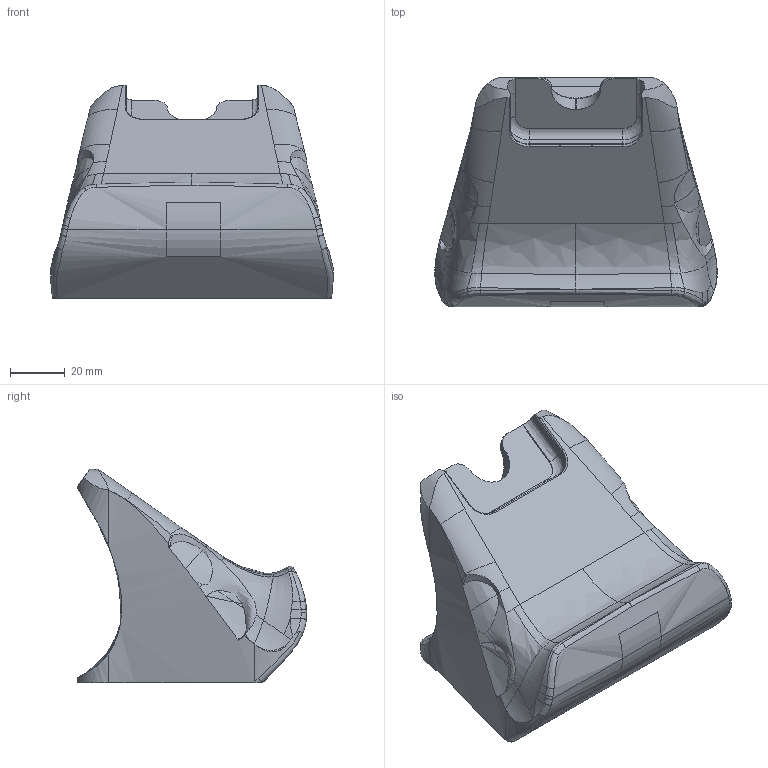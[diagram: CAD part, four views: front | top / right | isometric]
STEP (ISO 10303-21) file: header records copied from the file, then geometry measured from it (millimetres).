
FILE_DESCRIPTION(/* description */ (''),/* implementation_level */ '2;1');
FILE_NAME(/* name */ 'Steamdeck Controller Dock V1.01 - Hollow - No Logo.step',/* time_stamp */ '2026-05-17T18:05:29+01:00',/* author */ (''),/* organization */ (''),/* preprocessor_version */ 'ST-DEVELOPER v20.1',/* originating_system */ 'Autodesk Translation Framework v15.8.0.0',/* authorisation */ '');
FILE_SCHEMA (('AUTOMOTIVE_DESIGN { 1 0 10303 214 3 1 1 }'));
Length unit declared in the file: millimetre
Products named in the file (1): Steamdeck controller dock
Bounding box: 103.15 x 83.81 x 77.9 mm (x, y, z)
Volume: 206900.3 mm3; surface area: 37941.3 mm2
Topology: 1 solids, 1 shells, 166 faces, 489 edges, 311 vertices
Faces by surface type: bspline 128, plane 28, cylinder 10
Entity records: 27187 total; most frequent: CARTESIAN_POINT 23861, ORIENTED_EDGE 948, EDGE_CURVE 474, B_SPLINE_CURVE_WITH_KNOTS 333, VERTEX_POINT 311, DIRECTION 262, EDGE_LOOP 167, FACE_OUTER_BOUND 166
